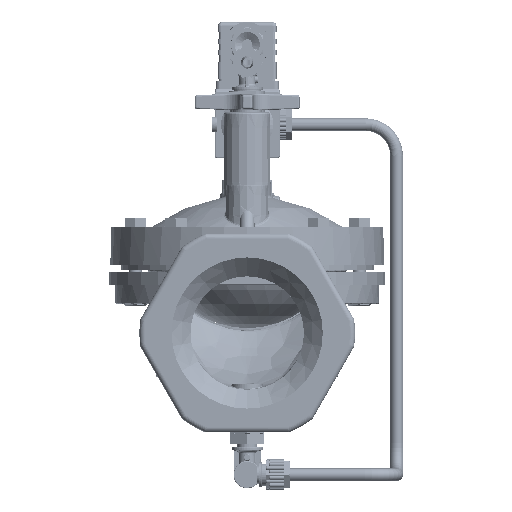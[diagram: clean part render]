
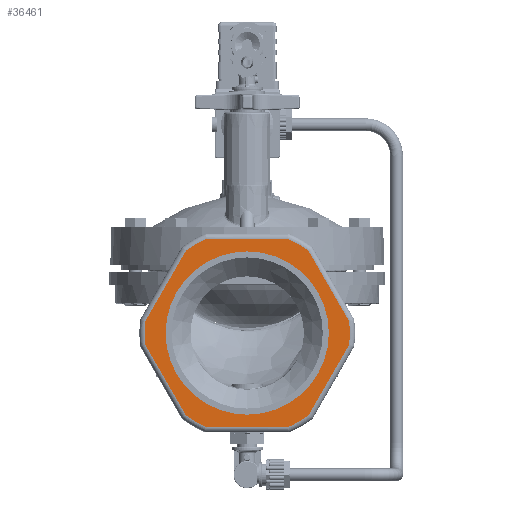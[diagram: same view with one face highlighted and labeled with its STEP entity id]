
A CAD part, left-side view. The second image highlights one B-rep face of the part: STEP entity #36461.
In plain terms, the highlighted planar face has unit normal (-1, 0, 0).
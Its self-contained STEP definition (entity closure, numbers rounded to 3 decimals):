
#20044=EDGE_CURVE('',#51910,#55693,#55694,.T.);
#22181=EDGE_CURVE('',#59346,#53464,#59347,.T.);
#22683=EDGE_CURVE('',#60185,#60186,#60187,.T.);
#23286=EDGE_CURVE('',#61220,#61221,#61222,.T.);
#24133=EDGE_CURVE('',#55693,#62595,#62596,.T.);
#29268=EDGE_CURVE('',#71043,#51910,#71044,.T.);
#29455=EDGE_CURVE('',#71314,#71315,#71316,.T.);
#32943=EDGE_CURVE('',#69321,#71043,#76463,.T.);
#33952=EDGE_CURVE('',#55418,#69321,#77866,.T.);
#34250=EDGE_CURVE('',#61221,#67265,#78266,.T.);
#36376=EDGE_CURVE('',#81194,#74919,#81195,.T.);
#36461=ADVANCED_FACE('',(#81306,#81307),#81308,.F.);
#37139=EDGE_CURVE('',#72514,#82320,#82321,.T.);
#37613=EDGE_CURVE('',#74919,#61220,#82974,.T.);
#39169=EDGE_CURVE('',#82320,#55418,#85053,.T.);
#39721=EDGE_CURVE('',#67265,#72514,#85777,.T.);
#40471=EDGE_CURVE('',#53464,#86735,#86736,.T.);
#40831=EDGE_CURVE('',#71315,#71314,#87200,.T.);
#41077=EDGE_CURVE('',#86735,#81194,#87505,.T.);
#48136=EDGE_CURVE('',#62595,#60185,#97051,.T.);
#49511=EDGE_CURVE('',#60186,#59346,#98685,.T.);
#51910=VERTEX_POINT('',#102087);
#53464=VERTEX_POINT('',#107001);
#55418=VERTEX_POINT('',#112670);
#55693=VERTEX_POINT('',#113528);
#55694=LINE('',#113529,#113530);
#59346=VERTEX_POINT('',#125823);
#59347=CIRCLE('',#125824,49.0);
#60185=VERTEX_POINT('',#128717);
#60186=VERTEX_POINT('',#128718);
#60187=LINE('',#128719,#128720);
#61220=VERTEX_POINT('',#132182);
#61221=VERTEX_POINT('',#132183);
#61222=CIRCLE('',#132184,49.0);
#62595=VERTEX_POINT('',#136693);
#62596=CIRCLE('',#136694,49.0);
#67265=VERTEX_POINT('',#151380);
#69321=VERTEX_POINT('',#156929);
#71043=VERTEX_POINT('',#162343);
#71044=CIRCLE('',#162344,49.0);
#71314=VERTEX_POINT('',#163202);
#71315=VERTEX_POINT('',#163203);
#71316=CIRCLE('',#163204,39.0);
#72514=VERTEX_POINT('',#167064);
#74919=VERTEX_POINT('',#176065);
#76463=CIRCLE('',#181665,49.0);
#77866=LINE('',#186455,#186456);
#78266=CIRCLE('',#187788,49.0);
#81194=VERTEX_POINT('',#198933);
#81195=CIRCLE('',#198934,49.0);
#81306=FACE_BOUND('',#199372,.T.);
#81307=FACE_OUTER_BOUND('',#199373,.T.);
#81308=PLANE('',#199374);
#82320=VERTEX_POINT('',#202949);
#82321=CIRCLE('',#202950,49.0);
#82974=LINE('',#205197,#205198);
#85053=CIRCLE('',#213277,49.0);
#85777=LINE('',#215617,#215618);
#86735=VERTEX_POINT('',#219803);
#86736=LINE('',#219804,#219805);
#87200=CIRCLE('',#221651,39.0);
#87505=CIRCLE('',#222744,49.0);
#97051=CIRCLE('',#257899,49.0);
#98685=CIRCLE('',#264420,49.0);
#102087=CARTESIAN_POINT('',(-114.25,-29.276,-39.293));
#107001=CARTESIAN_POINT('',(-114.25,-19.391,45.0));
#112670=CARTESIAN_POINT('',(-114.25,19.391,-45.0));
#113528=CARTESIAN_POINT('',(-114.25,-48.667,-5.707));
#113529=CARTESIAN_POINT('',(-114.25,-39.081,-22.309));
#113530=VECTOR('',#274928,1.0);
#125823=CARTESIAN_POINT('',(-114.25,-24.5,42.435));
#125824=AXIS2_PLACEMENT_3D('',#278700,#278701,#278702);
#128717=CARTESIAN_POINT('',(-114.25,-48.667,5.707));
#128718=CARTESIAN_POINT('',(-114.25,-29.276,39.293));
#128719=CARTESIAN_POINT('',(-114.25,-38.861,22.691));
#128720=VECTOR('',#279560,1.0);
#132182=CARTESIAN_POINT('',(-114.25,48.667,5.707));
#132183=CARTESIAN_POINT('',(-114.25,49.0,0.));
#132184=AXIS2_PLACEMENT_3D('',#280515,#280516,#280517);
#136693=CARTESIAN_POINT('',(-114.25,-49.0,0.));
#136694=AXIS2_PLACEMENT_3D('',#282000,#282001,#282002);
#151380=CARTESIAN_POINT('',(-114.25,48.667,-5.707));
#156929=CARTESIAN_POINT('',(-114.25,-19.391,-45.));
#162343=CARTESIAN_POINT('',(-114.25,-24.5,-42.435));
#162344=AXIS2_PLACEMENT_3D('',#292044,#292045,#292046);
#163202=CARTESIAN_POINT('',(-114.25,0.,39.0));
#163203=CARTESIAN_POINT('',(-114.25,0.,-39.0));
#163204=AXIS2_PLACEMENT_3D('',#292369,#292370,#292371);
#167064=CARTESIAN_POINT('',(-114.25,29.276,-39.293));
#176065=CARTESIAN_POINT('',(-114.25,29.276,39.293));
#181665=AXIS2_PLACEMENT_3D('',#298687,#298688,#298689);
#186455=CARTESIAN_POINT('',(-114.25,-9.747,-45.0));
#186456=VECTOR('',#300386,1.0);
#187788=AXIS2_PLACEMENT_3D('',#300875,#300876,#300877);
#198933=CARTESIAN_POINT('',(-114.25,24.5,42.435));
#198934=AXIS2_PLACEMENT_3D('',#304432,#304433,#304434);
#199372=EDGE_LOOP('',(#304548,#304549));
#199373=EDGE_LOOP('',(#304550,#304551,#304552,#304553,#304554,#304555,#304556,#304557,#304558,#304559,#304560,#304561,#304562,#304563,#304564,#304565,#304566,#304567));
#199374=AXIS2_PLACEMENT_3D('',#304568,#304569,#304570);
#202949=CARTESIAN_POINT('',(-114.25,24.329,-42.533));
#202950=AXIS2_PLACEMENT_3D('',#305684,#305685,#305686);
#205197=CARTESIAN_POINT('',(-114.25,48.608,5.809));
#205198=VECTOR('',#306501,1.);
#213277=AXIS2_PLACEMENT_3D('',#309288,#309289,#309290);
#215617=CARTESIAN_POINT('',(-114.25,29.335,-39.191));
#215618=VECTOR('',#310258,1.0);
#219803=CARTESIAN_POINT('',(-114.25,19.391,45.0));
#219804=CARTESIAN_POINT('',(-114.25,9.747,45.0));
#219805=VECTOR('',#311465,1.0);
#221651=AXIS2_PLACEMENT_3D('',#312078,#312079,#312080);
#222744=AXIS2_PLACEMENT_3D('',#312487,#312488,#312489);
#257899=AXIS2_PLACEMENT_3D('',#327566,#327567,#327568);
#264420=AXIS2_PLACEMENT_3D('',#329852,#329853,#329854);
#274928=DIRECTION('',(0.0,-0.5,0.866));
#278700=CARTESIAN_POINT('',(-114.25,0.0,0.0));
#278701=DIRECTION('',(-1.0,0.0,0.0));
#278702=DIRECTION('',(0.0,-0.5,0.866));
#279560=DIRECTION('',(0.0,0.5,0.866));
#280515=CARTESIAN_POINT('',(-114.25,0.0,0.0));
#280516=DIRECTION('',(-1.0,0.0,0.0));
#280517=DIRECTION('',(0.0,1.0,0.));
#282000=CARTESIAN_POINT('',(-114.25,0.0,0.0));
#282001=DIRECTION('',(-1.0,0.0,0.0));
#282002=DIRECTION('',(0.0,-1.0,0.));
#292044=CARTESIAN_POINT('',(-114.25,0.0,0.0));
#292045=DIRECTION('',(-1.0,-0.0,0.0));
#292046=DIRECTION('',(0.0,-0.5,-0.866));
#292369=CARTESIAN_POINT('',(-114.25,0.0,0.0));
#292370=DIRECTION('',(-1.0,0.0,0.0));
#292371=DIRECTION('',(0.0,0.0,-1.0));
#298687=CARTESIAN_POINT('',(-114.25,0.0,0.0));
#298688=DIRECTION('',(-1.0,-0.0,0.0));
#298689=DIRECTION('',(0.0,-0.5,-0.866));
#300386=DIRECTION('',(0.0,-1.0,0.));
#300875=CARTESIAN_POINT('',(-114.25,0.0,0.0));
#300876=DIRECTION('',(-1.0,0.0,0.0));
#300877=DIRECTION('',(0.0,1.0,0.));
#304432=CARTESIAN_POINT('',(-114.25,0.0,0.0));
#304433=DIRECTION('',(-1.0,0.0,0.0));
#304434=DIRECTION('',(0.0,0.5,0.866));
#304548=ORIENTED_EDGE('',*,*,#29455,.F.);
#304549=ORIENTED_EDGE('',*,*,#40831,.F.);
#304550=ORIENTED_EDGE('',*,*,#33952,.T.);
#304551=ORIENTED_EDGE('',*,*,#32943,.T.);
#304552=ORIENTED_EDGE('',*,*,#29268,.T.);
#304553=ORIENTED_EDGE('',*,*,#20044,.T.);
#304554=ORIENTED_EDGE('',*,*,#24133,.T.);
#304555=ORIENTED_EDGE('',*,*,#48136,.T.);
#304556=ORIENTED_EDGE('',*,*,#22683,.T.);
#304557=ORIENTED_EDGE('',*,*,#49511,.T.);
#304558=ORIENTED_EDGE('',*,*,#22181,.T.);
#304559=ORIENTED_EDGE('',*,*,#40471,.T.);
#304560=ORIENTED_EDGE('',*,*,#41077,.T.);
#304561=ORIENTED_EDGE('',*,*,#36376,.T.);
#304562=ORIENTED_EDGE('',*,*,#37613,.T.);
#304563=ORIENTED_EDGE('',*,*,#23286,.T.);
#304564=ORIENTED_EDGE('',*,*,#34250,.T.);
#304565=ORIENTED_EDGE('',*,*,#39721,.T.);
#304566=ORIENTED_EDGE('',*,*,#37139,.T.);
#304567=ORIENTED_EDGE('',*,*,#39169,.T.);
#304568=CARTESIAN_POINT('',(-114.25,0.0,-22.0));
#304569=DIRECTION('',(1.0,-0.0,0.0));
#304570=DIRECTION('',(0.0,0.0,-1.0));
#305684=CARTESIAN_POINT('',(-114.25,0.0,0.0));
#305685=DIRECTION('',(-1.0,0.0,0.0));
#305686=DIRECTION('',(0.0,0.497,-0.868));
#306501=DIRECTION('',(0.0,0.5,-0.866));
#309288=CARTESIAN_POINT('',(-114.25,0.0,0.0));
#309289=DIRECTION('',(-1.0,0.0,0.0));
#309290=DIRECTION('',(0.0,0.497,-0.868));
#310258=DIRECTION('',(0.0,-0.5,-0.866));
#311465=DIRECTION('',(0.0,1.0,0.));
#312078=CARTESIAN_POINT('',(-114.25,0.0,0.0));
#312079=DIRECTION('',(-1.0,0.0,0.0));
#312080=DIRECTION('',(0.0,0.0,-1.0));
#312487=CARTESIAN_POINT('',(-114.25,0.0,0.0));
#312488=DIRECTION('',(-1.0,0.0,0.0));
#312489=DIRECTION('',(0.0,0.5,0.866));
#327566=CARTESIAN_POINT('',(-114.25,0.0,0.0));
#327567=DIRECTION('',(-1.0,0.0,0.0));
#327568=DIRECTION('',(0.0,-1.0,0.));
#329852=CARTESIAN_POINT('',(-114.25,0.0,0.0));
#329853=DIRECTION('',(-1.0,0.0,0.0));
#329854=DIRECTION('',(0.0,-0.5,0.866));
